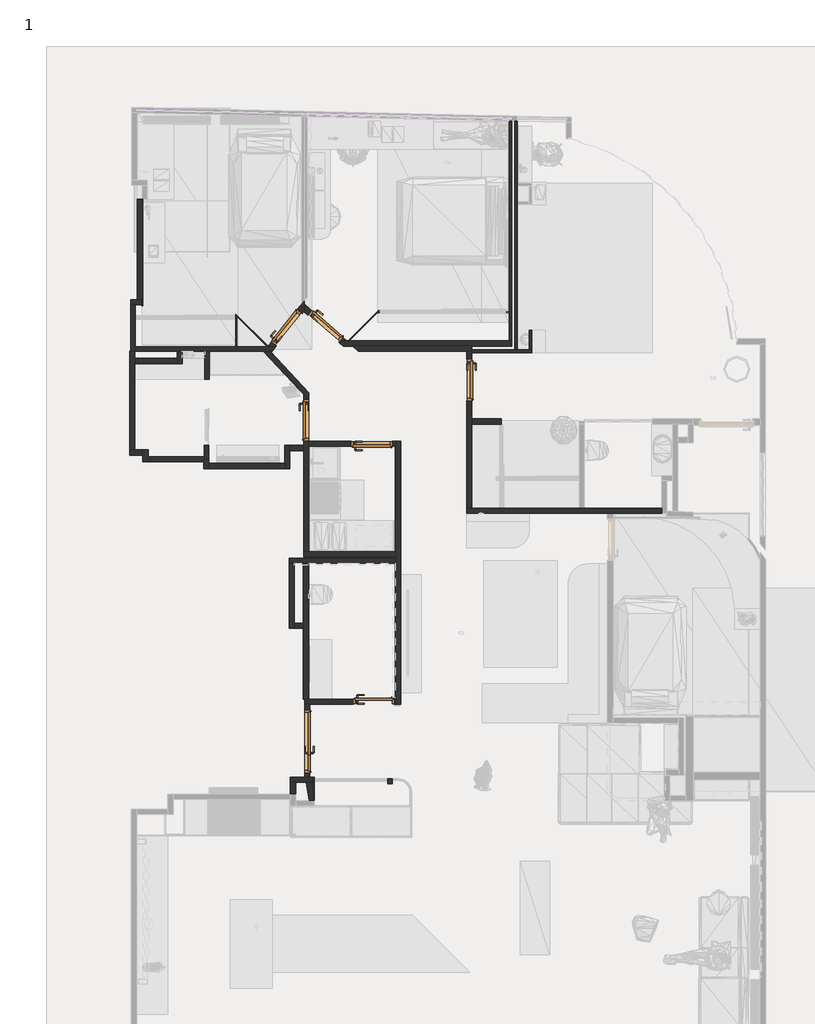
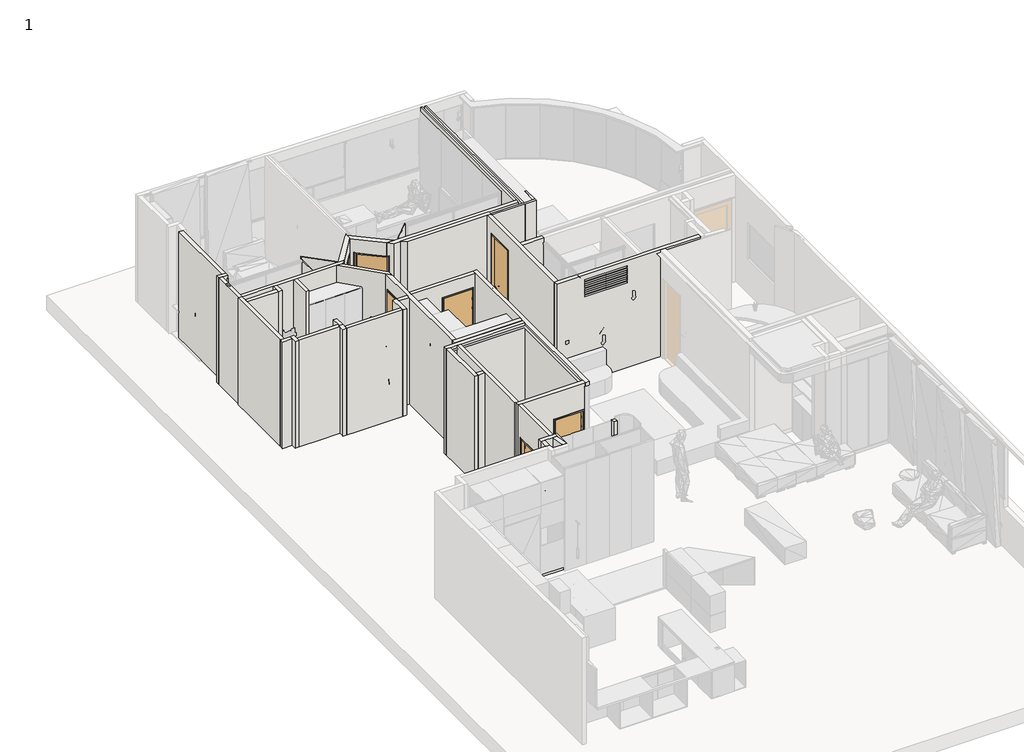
# One storey, part 5 of 11: 50 walls, 7 doors.
"""IFC4 building model written with IfcOpenShell, lengths in millimetres."""

from ifc_helpers import new_model, si_unit, frame, origin, origin_with_axes, place, context, project, spatial, polyline, outline, extrude, faceted_brep, transform, mapped, element, save
from components import door_3129260d, door_d430e235, door_9fdbb8ee, door_badb6875, jw_interior_door_stable_401_unequal_double_1_0_84d4197c, jw_interior_door_stable_401_unequal_double_1_0_001e30e6

model = new_model("IFC4")

# Units and contexts
model_context = context("Model", 3, world=origin())
ifc_project = project(units=[si_unit("LENGTHUNIT", "METRE", prefix="MILLI")], contexts=[model_context])

# Site, building, storey
site = spatial("IfcSite", under=ifc_project)
building = spatial("IfcBuilding", under=site)
storey = spatial("IfcBuildingStorey", under=building, Name="1", Elevation=0.0)

# Doors
placement = place(None, origin())
door_shape = door_3129260d(model_context)
element("IfcDoor", 1, ObjectType="JW_Interior_Door_Steady_411_Single_1.0 : 790 x 1890 mm - M8 x M19 2 gray", at=placement, inside=storey, context=model_context, shape_type="MappedRepresentation", body=[
    mapped(door_shape, transform((90505.7054451, 21800.6154053, 0.0), x_axis=(0.6241807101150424, 0.7812800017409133, 0.0), y_axis=(-0.7812800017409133, 0.6241807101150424, 0.0), z_axis=(0.0, 0.0, 1.0))),
])
element("IfcDoor", 2, ObjectType="JW_Interior_Door_Steady_411_Single_1.0 : 790 x 1890 mm - M8 x M19 2 gray", at=placement, inside=storey, context=model_context, shape_type="MappedRepresentation", body=[
    mapped(door_shape, transform((91246.0698021, 21828.2502061, 0.0), x_axis=(0.7554353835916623, -0.6552231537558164, 0.0), y_axis=(0.6552231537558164, 0.7554353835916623, 0.0), z_axis=(0.0, 0.0, 1.0))),
])
door_2_shape = door_d430e235(model_context)
element("IfcDoor", 3, ObjectType="JW_Interior_Door_Steady_411_Single_1.0 : 790 x 1890 mm - M8 x M19 2 gray", at=placement, inside=storey, context=model_context, shape_type="MappedRepresentation", body=[
    mapped(door_2_shape, transform((94012.5845465, 20799.5343104, 0.0), x_axis=(0.0, -1.0, 0.0), y_axis=(1.0, 0.0, 0.0), z_axis=(0.0, 0.0, 1.0))),
])
door_3_shape = door_9fdbb8ee(model_context)
element("IfcDoor", 4, ObjectType="JW_Interior_Door_Steady_411_Single_1.0 : 790 x 1890 mm - M8 x M19 2 gray", at=placement, inside=storey, context=model_context, shape_type="MappedRepresentation", body=[
    mapped(door_3_shape, transform((92138.200692, 19574.1562218, 0.0), x_axis=(1.0, 0.0, 0.0), y_axis=(0.0, 1.0, 0.0), z_axis=(0.0, 0.0, 1.0))),
])
element("IfcDoor", 5, ObjectType="JW_Interior_Door_Steady_411_Single_1.0 : 790 x 1890 mm - M8 x M19 2 gray", at=placement, inside=storey, context=model_context, shape_type="MappedRepresentation", body=[
    mapped(door_3_shape, transform((90883.200692, 20029.1562218, 0.0), x_axis=(0.0, -1.0, 0.0), y_axis=(1.0, 0.0, 0.0), z_axis=(0.0, 0.0, 1.0))),
])
door_4_shape = door_badb6875(model_context)
element("IfcDoor", 6, ObjectType="JW_Interior_Door_Steady_411_Single_1.0 : 790 x 1890 mm - M8 x M19", at=placement, inside=storey, context=model_context, shape_type="MappedRepresentation", body=[
    mapped(door_4_shape, transform((92176.985489, 14619.8865738, 0.0), x_axis=(1.0, 0.0, 0.0), y_axis=(0.0, 1.0, 0.0), z_axis=(0.0, 0.0, 1.0))),
])
jw_interior_door_stable_401_unequal_double_1_0_shape = jw_interior_door_stable_401_unequal_double_1_0_84d4197c(model_context)
jw_interior_door_stable_401_unequal_double_1_0_2_shape = jw_interior_door_stable_401_unequal_double_1_0_001e30e6(model_context)
element("IfcDoor", 7, ObjectType="JW_Interior_Door_Stable_401_Unequal_Double_1.0 : 1290 x 2090 mm - M13 (M10+30) x M21", at=placement, inside=storey, context=model_context, shape_type="MappedRepresentation", body=[
    mapped(jw_interior_door_stable_401_unequal_double_1_0_shape, transform((90897.0142855, 13854.8865738, 0.0), x_axis=(0.0, 1.0, 0.0), y_axis=(-1.0, 0.0, 0.0), z_axis=(0.0, 0.0, 1.0))),
    mapped(jw_interior_door_stable_401_unequal_double_1_0_2_shape, transform((90897.0142855, 13854.8865738, 0.0), x_axis=(0.0, 1.0, 0.0), y_axis=(-1.0, 0.0, 0.0), z_axis=(0.0, 0.0, 1.0))),
])

# Walls
element("IfcWall", 8, ObjectType=".016", at=placement, inside=storey, context=model_context, shape_type="Brep", body=[
    faceted_brep([(92271.7882614, 22140.6907687, 0.0), (91683.270838, 21552.1733453, 0.0), (91683.270838, 21552.1733453, 2827.5479286), (92271.7882614, 22140.6907687, 2827.5479286), (92283.1019699, 22129.3770602, 0.0), (92283.1019699, 22129.3770602, 2827.5479286), (91705.898255, 21552.1733453, 2827.5479286), (91705.898255, 21552.1733453, 0.0), (92243.9570912, 22090.2321816, 0.0), (92259.9570912, 22106.2321816, 0.0)], [[[0, 1, 2, 3]], [[4, 5, 6, 7, 8, 9]], [[1, 0, 4, 9, 8, 7]], [[3, 2, 6, 5]], [[0, 3, 5, 4]], [[2, 1, 7, 6]]]),
])
element("IfcWall", 9, ObjectType=".016", at=placement, inside=storey, context=model_context, shape_type="SweptSolid", body=[
    extrude(outline(polyline([(91038.8774986, 13138.0733743), (92446.2614834, 13138.0733743), (92446.2614834, 13122.0733743), (91038.8774986, 13122.0733743), (91038.8774986, 13138.0733743)])), origin_with_axes(), (0.0, 0.0, 1.0), 429.7797884),
])
element("IfcWall", 10, ObjectType=".016", at=placement, inside=storey, context=model_context, shape_type="SweptSolid", body=[
    extrude(outline(polyline([(94782.0328941, 22090.2321816), (92243.9570912, 22090.2321816), (92259.9570912, 22106.2321816), (94782.0328941, 22106.2321816), (94782.0328941, 22090.2321816)])), origin_with_axes(), (0.0, 0.0, 1.0), 100.0),
])
element("IfcWall", 11, ObjectType=".016", at=placement, inside=storey, context=model_context, shape_type="Brep", body=[
    faceted_brep([(90147.24832, 21448.064646, 0.0), (89528.5669222, 22066.7460438, 0.0), (89528.5669222, 22066.7460438, 2930.0), (90147.24832, 21448.064646, 2930.0), (90130.9100679, 21441.7754811, 0.0), (90130.9100679, 21441.7754811, 2930.0), (89528.5669222, 22044.1186268, 2930.0), (89528.5669222, 22044.1186268, 2851.0540267), (89528.5669222, 22044.1186268, 0.0), (89544.5669222, 22028.1186268, 0.0), (90142.2237764, 21441.7754811, 0.0), (90142.2237764, 21441.7754811, 2930.0)], [[[0, 1, 2, 3]], [[4, 5, 6, 7, 8, 9]], [[1, 0, 10, 4, 9, 8]], [[3, 2, 6, 5, 11]], [[0, 3, 11, 10]], [[11, 5, 4, 10]], [[2, 1, 8, 7, 6]]]),
])
element("IfcWall", 12, ObjectType=".016", at=placement, inside=storey, context=model_context, shape_type="SweptSolid", body=[
    extrude(outline(polyline([(89528.5669222, 21445.7636617), (89528.5669222, 22044.1186268), (89544.5669222, 22028.1186268), (89544.5669222, 21445.7636617), (89528.5669222, 21445.7636617)])), origin_with_axes(), (0.0, 0.0, 1.0), 2851.0540267),
])
element("IfcWall", 13, ObjectType=".016", at=placement, inside=storey, context=model_context, shape_type="Brep", body=[
    faceted_brep([(87719.0362797, 22338.487544, 0.0), (87719.0362797, 22248.487544, 0.0), (87719.0362797, 22228.487544, 0.0), (87719.0362797, 22228.487544, 2851.0540267), (87719.0362797, 22248.487544, 2851.0540267), (87719.0362797, 22338.487544, 2851.0540267), (87735.0362797, 22338.487544, 0.0), (87735.0362797, 22338.487544, 2851.0540267), (87735.0362797, 22248.487544, 2851.0540267), (87735.0362797, 22228.487544, 2851.0540267), (87735.0362797, 22228.487544, 0.0)], [[[0, 1, 2, 3, 4, 5]], [[6, 7, 8, 9, 10]], [[2, 1, 0, 6, 10]], [[3, 2, 10, 9]], [[5, 4, 3, 9, 8, 7]], [[0, 5, 7, 6]]]),
])
element("IfcWall", 14, ObjectType=".016", at=placement, inside=storey, context=model_context, shape_type="SweptSolid", body=[
    extrude(outline(polyline([(89979.6409184, 12079.0538927), (90577.8549068, 12079.0538927), (90577.8549068, 12063.0538927), (89979.6409184, 12063.0538927), (89979.6409184, 12079.0538927)])), frame((0.0, 0.0, 17.2237934), z_axis=(0.0, 0.0, 1.0), x_axis=(1.0, 0.0, 0.0)), (0.0, 0.0, 1.0), 82.7762066),
])
element("IfcWall", 15, ObjectType="10", at=placement, inside=storey, context=model_context, shape_type="Brep", body=[
    faceted_brep([(91006.8774986, 13166.8008127, 2930.0), (91006.8774986, 13166.8008127, 0.0), (90947.0142855, 13166.8008127, 0.0), (90847.0142855, 13166.8008127, 0.0), (90575.9559803, 13166.8008127, 0.0), (90575.9559803, 13166.8008127, 2930.0), (90847.0142855, 13166.8008127, 2930.0), (90947.0142855, 13166.8008127, 2930.0), (91006.8774986, 13066.8008127, 0.0), (91006.8774986, 13066.8008127, 2930.0), (90986.3381857, 13066.8008127, 2930.0), (90885.2180888, 13066.8008127, 2930.0), (90675.9559803, 13066.8008127, 2930.0), (90575.9559803, 13066.8008127, 2930.0), (90575.9559803, 13066.8008127, 0.0), (90675.9559803, 13066.8008127, 0.0), (90885.2180888, 13066.8008127, 0.0), (90986.3381857, 13066.8008127, 0.0)], [[[0, 1, 2, 3, 4, 5, 6, 7]], [[8, 9, 10, 11, 12, 13, 14, 15, 16, 17]], [[4, 3, 2, 1, 8, 17, 16, 15, 14]], [[0, 7, 6, 5, 13, 12, 11, 10, 9]], [[5, 4, 14, 13]], [[0, 9, 8, 1]]]),
])
element("IfcWall", 16, ObjectType="10", at=placement, inside=storey, context=model_context, shape_type="Brep", body=[
    faceted_brep([(90575.9559803, 13066.8008127, 0.0), (90575.9559803, 12844.7827136, 0.0), (90575.9559803, 12844.7827136, 2930.0), (90575.9559803, 13066.8008127, 2930.0), (90675.9559803, 13066.8008127, 0.0), (90675.9559803, 13066.8008127, 2930.0), (90675.9559803, 12844.7827136, 2930.0), (90675.9559803, 12844.7827136, 0.0), (90577.8549068, 12844.7827136, 0.0), (90577.8549068, 12844.7827136, 2930.0)], [[[0, 1, 2, 3]], [[4, 5, 6, 7]], [[1, 0, 4, 7, 8]], [[3, 2, 9, 6, 5]], [[2, 1, 8, 7, 6, 9]], [[0, 3, 5, 4]]]),
])
element("IfcWall", 17, ObjectType="10", at=placement, inside=storey, context=model_context, shape_type="SweptSolid", body=[
    extrude(outline(polyline([(90986.3381857, 13066.8008127), (91038.8774986, 12716.7518002), (90937.7574017, 12716.7518002), (90885.2180888, 13066.8008127), (90986.3381857, 13066.8008127)])), origin_with_axes(), (0.0, 0.0, 1.0), 2930.0),
])
element("IfcWall", 18, ObjectType="10", at=placement, inside=storey, context=model_context, shape_type="Brep", body=[
    faceted_brep([(87635.0362797, 24268.9082853, 0.0), (87635.0362797, 22338.487544, 0.0), (87635.0362797, 22338.487544, 2930.0), (87635.0362797, 24268.9082853, 2930.0), (87735.0362797, 24268.9082853, 0.0), (87735.0362797, 24268.9082853, 2930.0), (87735.0362797, 22338.487544, 2930.0), (87735.0362797, 22338.487544, 2851.0540267), (87735.0362797, 22338.487544, 0.0), (87729.253874, 24268.9082853, 0.0), (87719.0362797, 22338.487544, 0.0), (87729.253874, 24268.9082853, 2930.0)], [[[0, 1, 2, 3]], [[4, 5, 6, 7, 8]], [[1, 0, 9, 4, 8, 10]], [[3, 2, 6, 5, 11]], [[0, 3, 11, 5, 4, 9]], [[2, 1, 10, 8, 7, 6]]]),
])
element("IfcWall", 19, ObjectType="10", at=placement, inside=storey, context=model_context, shape_type="Brep", body=[
    faceted_brep([(94630.8109317, 20052.3905873, 0.0), (94062.5845465, 20052.3905873, 0.0), (94062.5845465, 20052.3905873, 2930.0), (94630.8109317, 20052.3905873, 2930.0), (94630.8109317, 19952.3905873, 0.0), (94630.8109317, 19952.3905873, 2320.0), (94630.8109317, 19952.3905873, 2930.0), (94062.5845465, 19952.3905873, 2930.0), (94062.5845465, 19952.3905873, 0.0)], [[[0, 1, 2, 3]], [[4, 5, 6, 7, 8]], [[1, 0, 4, 8]], [[3, 2, 7, 6]], [[0, 3, 6, 5, 4]], [[2, 1, 8, 7]]]),
])
element("IfcWall", 20, ObjectType="10", at=placement, inside=storey, context=model_context, shape_type="Brep", body=[
    faceted_brep([(97709.8270097, 18334.4281393, 0.0), (96224.9879055, 18334.4281393, 0.0), (96124.9879055, 18334.4281393, 0.0), (94062.5845465, 18334.4281393, 0.0), (93962.5845465, 18334.4281393, 0.0), (93962.5845465, 18334.4281393, 2930.0), (94062.5845465, 18334.4281393, 2930.0), (96124.9879055, 18334.4281393, 2930.0), (96224.9879055, 18334.4281393, 2930.0), (97709.8270097, 18334.4281393, 2930.0), (94698.2924445, 18334.4281393, 2332.760625), (95798.2924445, 18334.4281393, 2332.760625), (95798.2924445, 18334.4281393, 2372.760625), (94698.2924445, 18334.4281393, 2372.760625), (95798.2924445, 18334.4281393, 2392.760625), (95798.2924445, 18334.4281393, 2432.760625), (94698.2924445, 18334.4281393, 2432.760625), (94698.2924445, 18334.4281393, 2392.760625), (95798.2924445, 18334.4281393, 2452.760625), (95798.2924445, 18334.4281393, 2492.760625), (94698.2924445, 18334.4281393, 2492.760625), (94698.2924445, 18334.4281393, 2452.760625), (95798.2924445, 18334.4281393, 2512.760625), (95798.2924445, 18334.4281393, 2552.760625), (94698.2924445, 18334.4281393, 2552.760625), (94698.2924445, 18334.4281393, 2512.760625), (95798.2924445, 18334.4281393, 2572.760625), (95798.2924445, 18334.4281393, 2612.760625), (94698.2924445, 18334.4281393, 2612.760625), (94698.2924445, 18334.4281393, 2572.760625), (95798.2924445, 18334.4281393, 2632.760625), (95798.2924445, 18334.4281393, 2672.760625), (94698.2924445, 18334.4281393, 2672.760625), (94698.2924445, 18334.4281393, 2632.760625), (95798.2924445, 18334.4281393, 2692.760625), (95798.2924445, 18334.4281393, 2732.760625), (94698.2924445, 18334.4281393, 2732.760625), (94698.2924445, 18334.4281393, 2692.760625), (95798.2924445, 18334.4281393, 2752.760625), (95798.2924445, 18334.4281393, 2792.760625), (94698.2924445, 18334.4281393, 2792.760625), (94698.2924445, 18334.4281393, 2752.760625), (93962.5845465, 18234.4281393, 0.0), (96663.359081, 18234.4281393, 0.0), (96783.359081, 18234.4281393, 0.0), (97709.8270097, 18234.4281393, 0.0), (97709.8270097, 18234.4281393, 2930.0), (96783.359081, 18234.4281393, 2930.0), (96663.359081, 18234.4281393, 2930.0), (93962.5845465, 18234.4281393, 2930.0), (95798.2924445, 18234.4281393, 2332.760625), (94698.2924445, 18234.4281393, 2332.760625), (94698.2924445, 18234.4281393, 2372.760625), (95798.2924445, 18234.4281393, 2372.760625), (95798.2924445, 18234.4281393, 2432.760625), (95798.2924445, 18234.4281393, 2392.760625), (94698.2924445, 18234.4281393, 2392.760625), (94698.2924445, 18234.4281393, 2432.760625), (95798.2924445, 18234.4281393, 2492.760625), (95798.2924445, 18234.4281393, 2452.760625), (94698.2924445, 18234.4281393, 2452.760625), (94698.2924445, 18234.4281393, 2492.760625), (95798.2924445, 18234.4281393, 2552.760625), (95798.2924445, 18234.4281393, 2512.760625), (94698.2924445, 18234.4281393, 2512.760625), (94698.2924445, 18234.4281393, 2552.760625), (95798.2924445, 18234.4281393, 2612.760625), (95798.2924445, 18234.4281393, 2572.760625), (94698.2924445, 18234.4281393, 2572.760625), (94698.2924445, 18234.4281393, 2612.760625), (95798.2924445, 18234.4281393, 2672.760625), (95798.2924445, 18234.4281393, 2632.760625), (94698.2924445, 18234.4281393, 2632.760625), (94698.2924445, 18234.4281393, 2672.760625), (95798.2924445, 18234.4281393, 2732.760625), (95798.2924445, 18234.4281393, 2692.760625), (94698.2924445, 18234.4281393, 2692.760625), (94698.2924445, 18234.4281393, 2732.760625), (95798.2924445, 18234.4281393, 2792.760625), (95798.2924445, 18234.4281393, 2752.760625), (94698.2924445, 18234.4281393, 2752.760625), (94698.2924445, 18234.4281393, 2792.760625), (94184.4379055, 18234.4281393, 266.9017354), (94184.4379055, 18234.4281393, 348.0517354), (94265.5379055, 18234.4281393, 348.0517354), (94265.5379055, 18234.4281393, 266.9017354), (94184.4379055, 18259.4281393, 348.0517354), (94184.4379055, 18259.4281393, 266.9017354), (94265.5379055, 18259.4281393, 266.9017354), (94265.5379055, 18259.4281393, 348.0517354)], [[[0, 1, 2, 3, 4, 5, 6, 7, 8, 9], [10, 11, 12, 13], [14, 15, 16, 17], [18, 19, 20, 21], [22, 23, 24, 25], [26, 27, 28, 29], [30, 31, 32, 33], [34, 35, 36, 37], [38, 39, 40, 41]], [[42, 43, 44, 45, 46, 47, 48, 49], [50, 51, 52, 53], [54, 55, 56, 57], [58, 59, 60, 61], [62, 63, 64, 65], [66, 67, 68, 69], [70, 71, 72, 73], [74, 75, 76, 77], [78, 79, 80, 81], [82, 83, 84, 85]], [[5, 4, 42, 49]], [[0, 9, 46, 45]], [[4, 3, 2, 1, 0, 45, 44, 43, 42]], [[9, 8, 7, 6, 5, 49, 48, 47, 46]], [[11, 10, 51, 50]], [[10, 13, 52, 51]], [[13, 12, 53, 52]], [[12, 11, 50, 53]], [[15, 14, 55, 54]], [[16, 15, 54, 57]], [[17, 16, 57, 56]], [[14, 17, 56, 55]], [[19, 18, 59, 58]], [[20, 19, 58, 61]], [[21, 20, 61, 60]], [[18, 21, 60, 59]], [[23, 22, 63, 62]], [[24, 23, 62, 65]], [[25, 24, 65, 64]], [[22, 25, 64, 63]], [[27, 26, 67, 66]], [[28, 27, 66, 69]], [[29, 28, 69, 68]], [[26, 29, 68, 67]], [[31, 30, 71, 70]], [[32, 31, 70, 73]], [[33, 32, 73, 72]], [[30, 33, 72, 71]], [[35, 34, 75, 74]], [[36, 35, 74, 77]], [[37, 36, 77, 76]], [[34, 37, 76, 75]], [[39, 38, 79, 78]], [[40, 39, 78, 81]], [[41, 40, 81, 80]], [[38, 41, 80, 79]], [[86, 87, 88, 89]], [[87, 86, 83, 82]], [[88, 87, 82, 85]], [[89, 88, 85, 84]], [[86, 89, 84, 83]]]),
])
element("IfcWall", 21, ObjectType="10", at=placement, inside=storey, context=model_context, shape_type="Brep", body=[
    faceted_brep([(91588.0933804, 21452.1733453, 0.0), (94832.0328941, 21452.1733453, 0.0), (94832.0328941, 21452.1733453, 2930.0), (91588.0933804, 21452.1733453, 2930.0), (91472.799014, 21552.1733453, 2930.0), (91655.9427251, 21552.1733453, 2930.0), (94782.0328941, 21552.1733453, 2930.0), (94832.0328941, 21552.1733453, 2930.0), (94832.0328941, 21552.1733453, 0.0), (94782.0328941, 21552.1733453, 0.0), (91705.898255, 21552.1733453, 0.0), (91683.270838, 21552.1733453, 0.0), (91655.9427251, 21552.1733453, 0.0), (91542.7305801, 21552.1733453, 0.0), (91542.7305801, 21552.1733453, 2560.0), (91472.799014, 21552.1733453, 2560.0), (91512.7077432, 21517.5587059, 0.0), (91512.7077432, 21517.5587059, 2560.0)], [[[0, 1, 2, 3]], [[4, 5, 6, 7, 8, 9, 10, 11, 12, 13, 14, 15]], [[1, 0, 16, 13, 12, 11, 10, 9, 8]], [[3, 2, 7, 6, 5, 4]], [[2, 1, 8, 7]], [[17, 14, 13, 16]], [[14, 17, 15]], [[3, 4, 15, 17, 16, 0]]]),
])
element("IfcWall", 22, ObjectType="10", at=placement, inside=storey, context=model_context, shape_type="Brep", body=[
    faceted_brep([(92591.985489, 17498.5737587, 0.0), (90933.200692, 17498.5737587, 0.0), (90833.200692, 17498.5737587, 0.0), (90833.200692, 17498.5737587, 2930.0), (90933.200692, 17498.5737587, 2930.0), (92591.985489, 17498.5737587, 2930.0), (92591.985489, 17398.5737587, 0.0), (92591.985489, 17398.5737587, 2930.0), (90833.200692, 17398.5737587, 2930.0), (90833.200692, 17398.5737587, 0.0)], [[[0, 1, 2, 3, 4, 5]], [[6, 7, 8, 9]], [[2, 1, 0, 6, 9]], [[5, 4, 3, 8, 7]], [[3, 2, 9, 8]], [[0, 5, 7, 6]]]),
])
element("IfcWall", 23, ObjectType="10", at=placement, inside=storey, context=model_context, shape_type="Brep", body=[
    faceted_brep([(94062.5845465, 21455.5715615, 0.0), (91767.3191397, 21455.5715615, 0.0), (91767.3191397, 21455.5715615, 2930.0), (94062.5845465, 21455.5715615, 2930.0), (94062.5845465, 21355.5715615, 0.0), (94062.5845465, 21355.5715615, 2930.0), (93962.5845465, 21355.5715615, 2930.0), (91882.6135061, 21355.5715615, 2930.0), (91882.6135061, 21355.5715615, 0.0), (93962.5845465, 21355.5715615, 0.0), (94062.5845465, 21375.9233453, 0.0), (94062.5845465, 21375.9233453, 2930.0)], [[[0, 1, 2, 3]], [[4, 5, 6, 7, 8, 9]], [[1, 0, 10, 4, 9, 8]], [[3, 2, 7, 6, 5, 11]], [[0, 3, 11, 5, 4, 10]], [[2, 1, 8, 7]]]),
])
element("IfcWall", 24, ObjectType="10", at=placement, inside=storey, context=model_context, shape_type="Brep", body=[
    faceted_brep([(93962.5845465, 18334.4281393, 2930.0), (93962.5845465, 21355.5715615, 2930.0), (93962.5845465, 21355.5715615, 0.0), (93962.5845465, 21204.5343104, 0.0), (93962.5845465, 21204.5343104, 2560.0), (93962.5845465, 20394.5343104, 2560.0), (93962.5845465, 20394.5343104, 0.0), (93962.5845465, 18334.4281393, 0.0), (94062.5845465, 21355.5715615, 2930.0), (94062.5845465, 21325.9233453, 2930.0), (94062.5845465, 20052.3905873, 2930.0), (94062.5845465, 19952.3905873, 2930.0), (94062.5845465, 18334.4281393, 2930.0), (94062.5845465, 18334.4281393, 0.0), (94062.5845465, 19952.3905873, 0.0), (94062.5845465, 20052.3905873, 0.0), (94062.5845465, 20394.5343104, 0.0), (94062.5845465, 20394.5343104, 2560.0), (94062.5845465, 21204.5343104, 2560.0), (94062.5845465, 21204.5343104, 0.0), (94062.5845465, 21325.9233453, 0.0), (94062.5845465, 21355.5715615, 0.0)], [[[0, 1, 2, 3, 4, 5, 6, 7]], [[8, 9, 10, 11, 12, 13, 14, 15, 16, 17, 18, 19, 20, 21]], [[2, 21, 20, 19, 3]], [[13, 7, 6, 16, 15, 14]], [[1, 0, 12, 11, 10, 9, 8]], [[0, 7, 13, 12]], [[2, 1, 8, 21]], [[5, 17, 16, 6]], [[17, 5, 4, 18]], [[18, 4, 3, 19]]]),
])
element("IfcWall", 25, ObjectType="10", at=placement, inside=storey, context=model_context, shape_type="Brep", body=[
    faceted_brep([(92591.985489, 14569.8865738, 2930.0), (90947.0142855, 14569.8865738, 2930.0), (90847.0142855, 14569.8865738, 2930.0), (90847.0142855, 14569.8865738, 0.0), (90947.0142855, 14569.8865738, 0.0), (91771.985489, 14569.8865738, 0.0), (91771.985489, 14569.8865738, 2210.0), (92581.985489, 14569.8865738, 2210.0), (92581.985489, 14569.8865738, 0.0), (92591.985489, 14569.8865738, 0.0), (90847.0142855, 14669.8865738, 2930.0), (90925.423998, 14669.8865738, 2930.0), (92591.985489, 14669.8865738, 2930.0), (92591.985489, 14669.8865738, 0.0), (92581.985489, 14669.8865738, 0.0), (92581.985489, 14669.8865738, 2210.0), (91771.985489, 14669.8865738, 2210.0), (91771.985489, 14669.8865738, 0.0), (90925.423998, 14669.8865738, 0.0), (90847.0142855, 14669.8865738, 0.0)], [[[0, 1, 2, 3, 4, 5, 6, 7, 8, 9]], [[10, 11, 12, 13, 14, 15, 16, 17, 18, 19]], [[3, 19, 18, 17, 5, 4]], [[13, 9, 8, 14]], [[2, 1, 0, 12, 11, 10]], [[3, 2, 10, 19]], [[7, 15, 14, 8]], [[15, 7, 6, 16]], [[16, 6, 5, 17]], [[12, 0, 9, 13]]]),
])
element("IfcWall", 26, ObjectType="10", at=placement, inside=storey, context=model_context, shape_type="SweptSolid", body=[
    extrude(outline(polyline([(13166.8008127, 2930.0), (14569.8865738, 2930.0), (14569.8865738, 0.0), (14464.8865738, 0.0), (14464.8865738, 2100.0), (13244.8865738, 2100.0), (13244.8865738, 0.0), (13166.8008127, 0.0), (13166.8008127, 2930.0)])), frame((90847.0142855, 0.0, 0.0), z_axis=(1.0, 0.0, 0.0), x_axis=(0.0, 1.0, 0.0)), (0.0, 0.0, 1.0), 100.0),
])
element("IfcWall", 27, ObjectType="10", at=placement, inside=storey, context=model_context, shape_type="Brep", body=[
    faceted_brep([(90933.200692, 20406.3898123, 2930.0), (90833.200692, 20513.5461955, 2930.0), (90050.9521126, 21351.7754811, 2930.0), (90050.9521126, 21351.7754811, 0.0), (90833.200692, 20513.5461955, 0.0), (90907.2886476, 20434.1562218, 0.0), (90907.2886476, 20434.1562218, 2560.0), (90933.200692, 20406.3898123, 2560.0), (90933.200692, 20552.9588761, 0.0), (90187.7326378, 21351.7754811, 0.0), (90187.7326378, 21351.7754811, 2930.0), (90933.200692, 20552.9588761, 2930.0), (90933.200692, 20434.1562218, 0.0), (90933.200692, 20434.1562218, 2560.0)], [[[0, 1, 2, 3, 4, 5, 6, 7]], [[8, 9, 10, 11]], [[9, 8, 12, 5, 4, 3]], [[2, 1, 0, 11, 10]], [[3, 2, 10, 9]], [[8, 11, 0, 7, 13, 12]], [[6, 13, 7]], [[13, 6, 5, 12]]]),
])
element("IfcWall", 28, ObjectType="10", at=placement, inside=storey, context=model_context, shape_type="Brep", body=[
    faceted_brep([(90833.200692, 17498.5737587, 2930.0), (90833.200692, 19441.5008997, 2930.0), (90833.200692, 19541.5008997, 2930.0), (90833.200692, 20513.5461955, 2930.0), (90833.200692, 20513.5461955, 0.0), (90833.200692, 20434.1562218, 0.0), (90833.200692, 20434.1562218, 2560.0), (90833.200692, 19624.1562218, 2560.0), (90833.200692, 19624.1562218, 0.0), (90833.200692, 19541.5008997, 0.0), (90833.200692, 19441.5008997, 0.0), (90833.200692, 17498.5737587, 0.0), (90933.200692, 20406.3898123, 2930.0), (90933.200692, 19624.1562218, 2930.0), (90933.200692, 19524.1562218, 2930.0), (90933.200692, 17498.5737587, 2930.0), (90933.200692, 17498.5737587, 0.0), (90933.200692, 19524.1562218, 0.0), (90933.200692, 19624.1562218, 0.0), (90933.200692, 19624.1562218, 2560.0), (90933.200692, 20406.3898123, 2560.0), (90907.2886476, 20434.1562218, 0.0), (90907.2886476, 20434.1562218, 2560.0)], [[[0, 1, 2, 3, 4, 5, 6, 7, 8, 9, 10, 11]], [[12, 13, 14, 15, 16, 17, 18, 19, 20]], [[16, 11, 10, 9, 8, 18, 17]], [[5, 4, 21]], [[3, 2, 1, 0, 15, 14, 13, 12]], [[4, 3, 12, 20, 22, 21]], [[0, 11, 16, 15]], [[7, 19, 18, 8]], [[19, 7, 6, 22, 20]], [[22, 6, 5, 21]]]),
])
element("IfcWall", 29, ObjectType="10", at=placement, inside=storey, context=model_context, shape_type="Brep", body=[
    faceted_brep([(92591.985489, 19524.1562218, 2930.0), (90933.200692, 19524.1562218, 2930.0), (90933.200692, 19524.1562218, 0.0), (91733.200692, 19524.1562218, 0.0), (91733.200692, 19524.1562218, 2560.0), (92543.200692, 19524.1562218, 2560.0), (92543.200692, 19524.1562218, 0.0), (92591.985489, 19524.1562218, 0.0), (90933.200692, 19624.1562218, 2930.0), (92591.985489, 19624.1562218, 2930.0), (92591.985489, 19624.1562218, 0.0), (92543.200692, 19624.1562218, 0.0), (92543.200692, 19624.1562218, 2560.0), (91733.200692, 19624.1562218, 2560.0), (91733.200692, 19624.1562218, 0.0), (90933.200692, 19624.1562218, 0.0), (90933.200692, 19624.1562218, 2560.0)], [[[0, 1, 2, 3, 4, 5, 6, 7]], [[8, 9, 10, 11, 12, 13, 14, 15, 16]], [[2, 15, 14, 3]], [[10, 7, 6, 11]], [[1, 0, 9, 8]], [[0, 7, 10, 9]], [[2, 1, 8, 16, 15]], [[5, 12, 11, 6]], [[12, 5, 4, 13]], [[13, 4, 3, 14]]]),
])
element("IfcWall", 30, ObjectType="10", at=placement, inside=storey, context=model_context, shape_type="SweptSolid", body=[
    extrude(outline(polyline([(90563.7504489, 19541.5008997), (90833.200692, 19541.5008997), (90833.200692, 19441.5008997), (90563.7504489, 19441.5008997), (90563.7504489, 19541.5008997)])), origin_with_axes(), (0.0, 0.0, 1.0), 2930.0),
])
element("IfcWall", 31, ObjectType="10", at=placement, inside=storey, context=model_context, shape_type="Brep", body=[
    faceted_brep([(90463.7504489, 19541.5008997, 0.0), (90463.7504489, 19195.1617865, 0.0), (90463.7504489, 19095.1617865, 0.0), (90463.7504489, 19095.1617865, 2930.0), (90463.7504489, 19195.1617865, 2930.0), (90463.7504489, 19541.5008997, 2930.0), (90563.7504489, 19541.5008997, 0.0), (90563.7504489, 19541.5008997, 2930.0), (90563.7504489, 19441.5008997, 2930.0), (90563.7504489, 19095.1617865, 2930.0), (90563.7504489, 19095.1617865, 0.0), (90563.7504489, 19441.5008997, 0.0)], [[[0, 1, 2, 3, 4, 5]], [[6, 7, 8, 9, 10, 11]], [[2, 1, 0, 6, 11, 10]], [[5, 4, 3, 9, 8, 7]], [[0, 5, 7, 6]], [[3, 2, 10, 9]]]),
])
element("IfcWall", 32, ObjectType="10", at=placement, inside=storey, context=model_context, shape_type="SweptSolid", body=[
    extrude(outline(polyline([(89008.3368224, 19195.1617865), (90463.7504489, 19195.1617865), (90463.7504489, 19095.1617865), (89008.3368224, 19095.1617865), (89008.3368224, 19195.1617865)])), origin_with_axes(), (0.0, 0.0, 1.0), 2930.0),
])
element("IfcWall", 33, ObjectType="10", at=placement, inside=storey, context=model_context, shape_type="Brep", body=[
    faceted_brep([(89008.3368224, 19095.1617865, 0.0), (89008.3368224, 19195.1617865, 0.0), (89008.3368224, 19278.0121652, 0.0), (89008.3368224, 19278.0121652, 2930.0), (89008.3368224, 19195.1617865, 2930.0), (89008.3368224, 19095.1617865, 2930.0), (88908.3368224, 19095.1617865, 0.0), (88908.3368224, 19095.1617865, 2930.0), (88908.3368224, 19228.0121652, 2930.0), (88908.3368224, 19278.0121652, 2930.0), (88908.3368224, 19278.0121652, 0.0), (88908.3368224, 19228.0121652, 0.0), (88918.3368224, 19278.0121652, 0.0), (88918.3368224, 19278.0121652, 2930.0)], [[[0, 1, 2, 3, 4, 5]], [[6, 7, 8, 9, 10, 11]], [[2, 1, 0, 6, 11, 10, 12]], [[3, 2, 12, 10, 9, 13]], [[5, 4, 3, 13, 9, 8, 7]], [[0, 5, 7, 6]]]),
])
element("IfcWall", 34, ObjectType="10", at=placement, inside=storey, context=model_context, shape_type="SweptSolid", body=[
    extrude(outline(polyline([(87841.9787823, 19328.0121652), (88918.3368224, 19328.0121652), (88918.3368224, 19278.0121652), (88908.3368224, 19278.0121652), (88908.3368224, 19228.0121652), (87841.9787823, 19228.0121652), (87841.9787823, 19328.0121652)])), origin_with_axes(), (0.0, 0.0, 1.0), 2930.0),
])
element("IfcWall", 35, ObjectType="10", at=placement, inside=storey, context=model_context, shape_type="Brep", body=[
    faceted_brep([(87841.9787823, 19228.0121652, 0.0), (87841.9787823, 19328.0121652, 0.0), (87841.9787823, 19454.3174421, 0.0), (87841.9787823, 19454.3174421, 2930.0), (87841.9787823, 19328.0121652, 2930.0), (87841.9787823, 19228.0121652, 2930.0), (87741.9787823, 19228.0121652, 0.0), (87741.9787823, 19228.0121652, 2930.0), (87741.9787823, 19354.3174421, 2930.0), (87741.9787823, 19454.3174421, 2930.0), (87741.9787823, 19454.3174421, 0.0), (87741.9787823, 19354.3174421, 0.0)], [[[0, 1, 2, 3, 4, 5]], [[6, 7, 8, 9, 10, 11]], [[2, 1, 0, 6, 11, 10]], [[5, 4, 3, 9, 8, 7]], [[0, 5, 7, 6]], [[3, 2, 10, 9]]]),
])
element("IfcWall", 36, ObjectType="10", at=placement, inside=storey, context=model_context, shape_type="Brep", body=[
    faceted_brep([(87741.9787823, 19454.3174421, 0.0), (87588.7972847, 19454.3174421, 0.0), (87488.7972847, 19454.3174421, 0.0), (87488.7972847, 19454.3174421, 2930.0), (87588.7972847, 19454.3174421, 2930.0), (87741.9787823, 19454.3174421, 2930.0), (87741.9787823, 19354.3174421, 0.0), (87741.9787823, 19354.3174421, 2930.0), (87488.7972847, 19354.3174421, 2930.0), (87488.7972847, 19354.3174421, 0.0)], [[[0, 1, 2, 3, 4, 5]], [[6, 7, 8, 9]], [[2, 1, 0, 6, 9]], [[5, 4, 3, 8, 7]], [[0, 5, 7, 6]], [[3, 2, 9, 8]]]),
])
element("IfcWall", 37, ObjectType="10", at=placement, inside=storey, context=model_context, shape_type="Brep", body=[
    faceted_brep([(87588.7972847, 19454.3174421, 0.0), (87588.7972847, 21113.0934632, 0.0), (87588.7972847, 21213.0934632, 0.0), (87588.7972847, 21351.7754811, 0.0), (87588.7972847, 21351.7754811, 2930.0), (87588.7972847, 21213.0934632, 2930.0), (87588.7972847, 21113.0934632, 2930.0), (87588.7972847, 19454.3174421, 2930.0), (87488.7972847, 19454.3174421, 0.0), (87488.7972847, 19454.3174421, 2930.0), (87488.7972847, 21351.7754811, 2930.0), (87488.7972847, 21351.7754811, 0.0), (87504.6763128, 21351.7754811, 0.0), (87504.6763128, 21351.7754811, 2930.0)], [[[0, 1, 2, 3, 4, 5, 6, 7]], [[8, 9, 10, 11]], [[3, 2, 1, 0, 8, 11, 12]], [[7, 6, 5, 4, 13, 10, 9]], [[4, 3, 12, 11, 10, 13]], [[0, 7, 9, 8]]]),
])
element("IfcWall", 38, ObjectType="10", at=placement, inside=storey, context=model_context, shape_type="SweptSolid", body=[
    extrude(outline(polyline([(88398.7972847, 21113.0934632), (87588.7972847, 21113.0934632), (87588.7972847, 21213.0934632), (88398.7972847, 21213.0934632), (88398.7972847, 21113.0934632)])), origin_with_axes(), (0.0, 0.0, 1.0), 2930.0),
])
element("IfcWall", 39, ObjectType="10", at=placement, inside=storey, context=model_context, shape_type="Brep", body=[
    faceted_brep([(88498.7972847, 21113.0934632, 0.0), (88498.7972847, 21351.7754811, 0.0), (88498.7972847, 21351.7754811, 2930.0), (88498.7972847, 21113.0934632, 2930.0), (88398.7972847, 21113.0934632, 0.0), (88398.7972847, 21113.0934632, 2930.0), (88398.7972847, 21213.0934632, 2930.0), (88398.7972847, 21351.7754811, 2930.0), (88398.7972847, 21351.7754811, 0.0), (88398.7972847, 21213.0934632, 0.0)], [[[0, 1, 2, 3]], [[4, 5, 6, 7, 8, 9]], [[1, 0, 4, 9, 8]], [[3, 2, 7, 6, 5]], [[2, 1, 8, 7]], [[0, 3, 5, 4]]]),
])
element("IfcWall", 40, ObjectType="10", at=placement, inside=storey, context=model_context, shape_type="Brep", body=[
    faceted_brep([(90551.7794713, 17279.0614237, 0.0), (90651.7794713, 17279.0614237, 0.0), (90825.423998, 17279.0614237, 0.0), (90925.423998, 17279.0614237, 0.0), (92591.985489, 17279.0614237, 0.0), (92591.985489, 17279.0614237, 2930.0), (90925.423998, 17279.0614237, 2930.0), (90825.423998, 17279.0614237, 2930.0), (90651.7794713, 17279.0614237, 2930.0), (90551.7794713, 17279.0614237, 2930.0), (90551.7794713, 17379.0614237, 0.0), (90551.7794713, 17379.0614237, 2930.0), (92591.985489, 17379.0614237, 2930.0), (92591.985489, 17379.0614237, 0.0)], [[[0, 1, 2, 3, 4, 5, 6, 7, 8, 9]], [[10, 11, 12, 13]], [[4, 3, 2, 1, 0, 10, 13]], [[9, 8, 7, 6, 5, 12, 11]], [[5, 4, 13, 12]], [[0, 9, 11, 10]]]),
])
element("IfcWall", 41, ObjectType="10", at=placement, inside=storey, context=model_context, shape_type="Brep", body=[
    faceted_brep([(90651.7794713, 16029.3170598, 0.0), (90651.7794713, 16129.3170598, 0.0), (90651.7794713, 17279.0614237, 0.0), (90651.7794713, 17279.0614237, 2930.0), (90651.7794713, 16129.3170598, 2930.0), (90651.7794713, 16029.3170598, 2930.0), (90551.7794713, 16029.3170598, 0.0), (90551.7794713, 16029.3170598, 2930.0), (90551.7794713, 17279.0614237, 2930.0), (90551.7794713, 17279.0614237, 0.0)], [[[0, 1, 2, 3, 4, 5]], [[6, 7, 8, 9]], [[2, 1, 0, 6, 9]], [[5, 4, 3, 8, 7]], [[3, 2, 9, 8]], [[0, 5, 7, 6]]]),
])
element("IfcWall", 42, ObjectType="10", at=placement, inside=storey, context=model_context, shape_type="SweptSolid", body=[
    extrude(outline(polyline([(90651.7794713, 16129.3170598), (90825.423998, 16129.3170598), (90825.423998, 16029.3170598), (90651.7794713, 16029.3170598), (90651.7794713, 16129.3170598)])), origin_with_axes(), (0.0, 0.0, 1.0), 2930.0),
])
element("IfcWall", 43, ObjectType="10", at=placement, inside=storey, context=model_context, shape_type="Brep", body=[
    faceted_brep([(90925.423998, 14669.8865738, 0.0), (90925.423998, 17279.0614237, 0.0), (90925.423998, 17279.0614237, 2930.0), (90925.423998, 14669.8865738, 2930.0), (90925.423998, 16169.3170598, 1150.0), (90925.423998, 17239.0614237, 1150.0), (90925.423998, 17239.0614237, 1048.1073622), (90925.423998, 16169.3170598, 1048.1073622), (90825.423998, 17279.0614237, 0.0), (90825.423998, 16129.3170598, 0.0), (90825.423998, 16029.3170598, 0.0), (90825.423998, 14669.8865738, 0.0), (90825.423998, 14669.8865738, 2930.0), (90825.423998, 16029.3170598, 2930.0), (90825.423998, 16129.3170598, 2930.0), (90825.423998, 17279.0614237, 2930.0), (90825.423998, 17239.0614237, 1150.0), (90825.423998, 16169.3170598, 1150.0), (90825.423998, 16169.3170598, 1048.1073622), (90825.423998, 17239.0614237, 1048.1073622), (90847.0142855, 14669.8865738, 0.0), (90847.0142855, 14669.8865738, 2930.0)], [[[0, 1, 2, 3], [4, 5, 6, 7]], [[8, 9, 10, 11, 12, 13, 14, 15], [16, 17, 18, 19]], [[1, 0, 20, 11, 10, 9, 8]], [[3, 2, 15, 14, 13, 12, 21]], [[0, 3, 21, 12, 11, 20]], [[2, 1, 8, 15]], [[4, 17, 16, 5]], [[6, 19, 18, 7]], [[17, 4, 7, 18]], [[5, 16, 19, 6]]]),
])
element("IfcWall", 44, ObjectType="10", at=placement, inside=storey, context=model_context, shape_type="Brep", body=[
    faceted_brep([(92691.985489, 14569.8865738, 0.0), (92691.985489, 19624.1562218, 0.0), (92691.985489, 19624.1562218, 2930.0), (92691.985489, 14569.8865738, 2930.0), (92591.985489, 14569.8865738, 0.0), (92591.985489, 14569.8865738, 2930.0), (92591.985489, 14669.8865738, 2930.0), (92591.985489, 17279.0614237, 2930.0), (92591.985489, 17379.0614237, 2930.0), (92591.985489, 17398.5737587, 2930.0), (92591.985489, 17498.5737587, 2930.0), (92591.985489, 19524.1562218, 2930.0), (92591.985489, 19624.1562218, 2930.0), (92591.985489, 19624.1562218, 0.0), (92591.985489, 19524.1562218, 0.0), (92591.985489, 17498.5737587, 0.0), (92591.985489, 17398.5737587, 0.0), (92591.985489, 17379.0614237, 0.0), (92591.985489, 17279.0614237, 0.0), (92591.985489, 14669.8865738, 0.0)], [[[0, 1, 2, 3]], [[4, 5, 6, 7, 8, 9, 10, 11, 12, 13, 14, 15, 16, 17, 18, 19]], [[1, 0, 4, 19, 18, 17, 16, 15, 14, 13]], [[3, 2, 12, 11, 10, 9, 8, 7, 6, 5]], [[2, 1, 13, 12]], [[0, 3, 5, 4]]]),
])
element("IfcWall", 45, ObjectType="12", at=placement, inside=storey, context=model_context, shape_type="Brep", body=[
    faceted_brep([(90142.2237764, 21441.7754811, 2930.0), (90147.24832, 21448.064646, 2930.0), (90790.4867294, 22253.1989564, 2930.0), (90840.4867294, 22315.7833962, 2930.0), (90840.4867294, 22315.7833962, 0.0), (90790.4867294, 22253.1989564, 0.0), (90711.6218326, 22154.4846487, 0.0), (90711.6218326, 22154.4846487, 2560.0), (90206.0354574, 21521.6478472, 2560.0), (90206.0354574, 21521.6478472, 0.0), (90147.24832, 21448.064646, 0.0), (90142.2237764, 21441.7754811, 0.0), (90840.4867294, 22123.53138, 2930.0), (90829.6680757, 22109.9897924, 2930.0), (90295.8178781, 21441.7754811, 2930.0), (90295.8178781, 21441.7754811, 0.0), (90299.7890576, 21446.746162, 0.0), (90299.7890576, 21446.746162, 2560.0), (90805.3754328, 22079.5829634, 2560.0), (90805.3754328, 22079.5829634, 0.0), (90829.6680757, 22109.9897924, 0.0), (90840.4867294, 22123.53138, 0.0), (90840.4867294, 22259.455081, 0.0), (90840.4867294, 22259.455081, 2930.0)], [[[0, 1, 2, 3, 4, 5, 6, 7, 8, 9, 10, 11]], [[12, 13, 14, 15, 16, 17, 18, 19, 20, 21]], [[15, 11, 10, 9, 16]], [[4, 22, 21, 20, 19, 6, 5]], [[3, 2, 1, 0, 14, 13, 12, 23]], [[0, 11, 15, 14]], [[4, 3, 23, 12, 21, 22]], [[18, 7, 6, 19]], [[7, 18, 17, 8]], [[8, 17, 16, 9]]]),
])
element("IfcWall", 46, ObjectType="12", at=placement, inside=storey, context=model_context, shape_type="Brep", body=[
    faceted_brep([(91472.799014, 21552.1733453, 2930.0), (90829.6680757, 22109.9897924, 2930.0), (90829.6680757, 22109.9897924, 0.0), (90900.8050825, 22048.2894604, 0.0), (90900.8050825, 22048.2894604, 2560.0), (91472.799014, 21552.1733453, 2560.0), (90840.4867294, 22259.455081, 2930.0), (91655.9427251, 21552.1733453, 2930.0), (91655.9427251, 21552.1733453, 0.0), (91591.3345217, 21608.2109519, 0.0), (91591.3345217, 21608.2109519, 2560.0), (90979.431861, 22138.9417064, 2560.0), (90979.431861, 22138.9417064, 0.0), (90840.4867294, 22259.455081, 0.0), (90840.4867294, 22123.53138, 0.0), (91542.7305801, 21552.1733453, 0.0), (90840.4867294, 22123.53138, 2930.0), (91542.7305801, 21552.1733453, 2560.0)], [[[0, 1, 2, 3, 4, 5]], [[6, 7, 8, 9, 10, 11, 12, 13]], [[2, 14, 13, 12, 3]], [[9, 8, 15]], [[1, 0, 7, 6, 16]], [[2, 1, 16, 14]], [[6, 13, 14, 16]], [[17, 10, 9, 15]], [[10, 17, 5, 4, 11]], [[11, 4, 3, 12]], [[7, 0, 5, 17, 15, 8]]]),
])
element("IfcWall", 47, ObjectType="3.2", at=placement, inside=storey, context=model_context, shape_type="Brep", body=[
    faceted_brep([(91038.8774986, 12716.7518002, 0.0), (91038.8774986, 13122.0733743, 0.0), (91038.8774986, 13138.0733743, 0.0), (91038.8774986, 13166.8008127, 0.0), (91038.8774986, 13166.8008127, 2930.0), (91038.8774986, 12716.7518002, 2930.0), (91006.8774986, 12716.7518002, 0.0), (91006.8774986, 12716.7518002, 2930.0), (91006.8774986, 13066.8008127, 2930.0), (91006.8774986, 13166.8008127, 2930.0), (91006.8774986, 13166.8008127, 0.0), (91006.8774986, 13066.8008127, 0.0)], [[[0, 1, 2, 3, 4, 5]], [[6, 7, 8, 9, 10, 11]], [[3, 2, 1, 0, 6, 11, 10]], [[5, 4, 9, 8, 7]], [[0, 5, 7, 6]], [[3, 10, 9, 4]]]),
])
element("IfcWall", 48, ObjectType="5", at=placement, inside=storey, context=model_context, shape_type="Brep", body=[
    faceted_brep([(94832.0328941, 21552.1733453, 0.0), (94832.0328941, 25773.2240469, 0.0), (94832.0328941, 25773.2240469, 2930.0), (94832.0328941, 21552.1733453, 2930.0), (94782.0328941, 21552.1733453, 0.0), (94782.0328941, 21552.1733453, 2930.0), (94782.0328941, 25774.3411788, 2930.0), (94782.0328941, 25774.3411788, 0.0), (94782.0328941, 22106.2321816, 0.0), (94782.0328941, 22090.2321816, 0.0)], [[[0, 1, 2, 3]], [[4, 5, 6, 7, 8, 9]], [[1, 0, 4, 9, 8, 7]], [[3, 2, 6, 5]], [[0, 3, 5, 4]], [[1, 7, 6, 2]]]),
])
element("IfcWall", 49, ObjectType="5", at=placement, inside=storey, context=model_context, shape_type="Brep", body=[
    faceted_brep([(94884.7838788, 25772.0454508, 2930.0), (94884.7838788, 25772.0454508, 0.0), (94884.7838788, 21375.9233453, 0.0), (94884.7838788, 21375.9233453, 2930.0), (94934.7838788, 25770.928319, 0.0), (94934.7838788, 25770.928319, 2930.0), (94934.7838788, 24579.1842947, 2930.0), (94934.7838788, 24529.1842947, 2930.0), (94934.7838788, 24227.9391232, 2930.0), (94934.7838788, 24177.9391232, 2930.0), (94934.7838788, 21375.9233453, 2930.0), (94934.7838788, 21375.9233453, 0.0), (94934.7838788, 24177.9391232, 0.0), (94934.7838788, 24227.9391232, 0.0), (94934.7838788, 24529.1842947, 0.0), (94934.7838788, 24579.1842947, 0.0)], [[[0, 1, 2, 3]], [[4, 5, 6, 7, 8, 9, 10, 11, 12, 13, 14, 15]], [[2, 1, 4, 15, 14, 13, 12, 11]], [[0, 3, 10, 9, 8, 7, 6, 5]], [[0, 5, 4, 1]], [[3, 2, 11, 10]]]),
])
element("IfcWall", 50, ObjectType="5", at=placement, inside=storey, context=model_context, shape_type="Brep", body=[
    faceted_brep([(95214.8466293, 21375.9233453, 0.0), (95164.8466293, 21375.9233453, 0.0), (94934.7838788, 21375.9233453, 0.0), (94884.7838788, 21375.9233453, 0.0), (94062.5845465, 21375.9233453, 0.0), (94062.5845465, 21375.9233453, 2930.0), (94884.7838788, 21375.9233453, 2930.0), (94934.7838788, 21375.9233453, 2930.0), (95164.8466293, 21375.9233453, 2930.0), (95214.8466293, 21375.9233453, 2930.0), (95214.8466293, 21325.9233453, 0.0), (95214.8466293, 21325.9233453, 2930.0), (94062.5845465, 21325.9233453, 2930.0), (94062.5845465, 21325.9233453, 0.0), (94062.5845465, 21355.5715615, 0.0), (94062.5845465, 21355.5715615, 2930.0)], [[[0, 1, 2, 3, 4, 5, 6, 7, 8, 9]], [[10, 11, 12, 13]], [[4, 3, 2, 1, 0, 10, 13, 14]], [[9, 8, 7, 6, 5, 15, 12, 11]], [[5, 4, 14, 13, 12, 15]], [[0, 9, 11, 10]]]),
])
element("IfcWall", 51, ObjectType="5", at=placement, inside=storey, context=model_context, shape_type="SweptSolid", body=[
    extrude(outline(polyline([(95214.8466293, 21756.4780308), (95214.8466293, 21375.9233453), (95164.8466293, 21375.9233453), (95164.8466293, 21756.4780308), (95214.8466293, 21756.4780308)])), origin_with_axes(), (0.0, 0.0, 1.0), 2930.0),
])
element("IfcWall", 52, ObjectType="8 cm", at=placement, inside=storey, context=model_context, shape_type="Brep", body=[
    faceted_brep([(87504.6763128, 22248.487544, 0.0), (87594.6763128, 22248.487544, 0.0), (87719.0362797, 22248.487544, 0.0), (87719.0362797, 22248.487544, 2851.0540267), (87735.0362797, 22248.487544, 2851.0540267), (87735.0362797, 22248.487544, 2930.0), (87594.6763128, 22248.487544, 2930.0), (87504.6763128, 22248.487544, 2930.0), (87719.0362797, 22338.487544, 0.0), (87635.0362797, 22338.487544, 0.0), (87504.6763128, 22338.487544, 0.0), (87504.6763128, 22338.487544, 2930.0), (87635.0362797, 22338.487544, 2930.0), (87735.0362797, 22338.487544, 2930.0), (87735.0362797, 22338.487544, 2851.0540267), (87719.0362797, 22338.487544, 2851.0540267)], [[[0, 1, 2, 3, 4, 5, 6, 7]], [[8, 9, 10, 11, 12, 13, 14, 15]], [[2, 1, 0, 10, 9, 8]], [[7, 6, 5, 13, 12, 11]], [[0, 7, 11, 10]], [[4, 3, 15, 14]], [[3, 2, 8, 15]], [[5, 4, 14, 13]]]),
])
element("IfcWall", 53, ObjectType="8 cm", at=placement, inside=storey, context=model_context, shape_type="Brep", body=[
    faceted_brep([(87594.6763128, 21351.7754811, 0.0), (87594.6763128, 21441.7754811, 0.0), (87594.6763128, 22248.487544, 0.0), (87594.6763128, 22248.487544, 2930.0), (87594.6763128, 21441.7754811, 2930.0), (87594.6763128, 21351.7754811, 2930.0), (87504.6763128, 21351.7754811, 0.0), (87504.6763128, 21351.7754811, 2930.0), (87504.6763128, 22248.487544, 2930.0), (87504.6763128, 22248.487544, 0.0), (87588.7972847, 21351.7754811, 0.0), (87588.7972847, 21351.7754811, 2930.0)], [[[0, 1, 2, 3, 4, 5]], [[6, 7, 8, 9]], [[2, 1, 0, 10, 6, 9]], [[5, 4, 3, 8, 7, 11]], [[3, 2, 9, 8]], [[0, 5, 11, 7, 6, 10]]]),
])
element("IfcWall", 54, ObjectType="8 cm", at=placement, inside=storey, context=model_context, shape_type="Brep", body=[
    faceted_brep([(90295.8178781, 21441.7754811, 0.0), (90142.2237764, 21441.7754811, 0.0), (90130.9100679, 21441.7754811, 0.0), (87594.6763128, 21441.7754811, 0.0), (87594.6763128, 21441.7754811, 2930.0), (90130.9100679, 21441.7754811, 2930.0), (90142.2237764, 21441.7754811, 2930.0), (90295.8178781, 21441.7754811, 2930.0), (90223.9150215, 21351.7754811, 0.0), (90223.9150215, 21351.7754811, 2930.0), (90187.7326378, 21351.7754811, 2930.0), (90050.9521126, 21351.7754811, 2930.0), (88498.7972847, 21351.7754811, 2930.0), (88398.7972847, 21351.7754811, 2930.0), (87594.6763128, 21351.7754811, 2930.0), (87594.6763128, 21351.7754811, 0.0), (88398.7972847, 21351.7754811, 0.0), (88498.7972847, 21351.7754811, 0.0), (90050.9521126, 21351.7754811, 0.0), (90187.7326378, 21351.7754811, 0.0)], [[[0, 1, 2, 3, 4, 5, 6, 7]], [[8, 9, 10, 11, 12, 13, 14, 15, 16, 17, 18, 19]], [[3, 2, 1, 0, 8, 19, 18, 17, 16, 15]], [[7, 6, 5, 4, 14, 13, 12, 11, 10, 9]], [[4, 3, 15, 14]], [[0, 7, 9, 8]]]),
])
element("IfcWall", 55, ObjectType="8 cm", at=placement, inside=storey, context=model_context, shape_type="SweptSolid", body=[
    extrude(outline(polyline([(89018.3334259, 21351.0121652), (89018.3334259, 20811.7754811), (88928.3334259, 20811.7754811), (88928.3334259, 21351.0121652), (89018.3334259, 21351.0121652)])), origin_with_axes(), (0.0, 0.0, 1.0), 2930.0),
])
element("IfcWall", 56, ObjectType="8 cm", at=placement, inside=storey, context=model_context, shape_type="Brep", body=[
    faceted_brep([(89008.3368224, 19278.0121652, 0.0), (89008.3368224, 19541.5008997, 0.0), (89008.3368224, 19541.5008997, 2930.0), (89008.3368224, 19278.0121652, 2930.0), (88918.3368224, 19278.0121652, 0.0), (88918.3368224, 19278.0121652, 2930.0), (88918.3368224, 19328.0121652, 2930.0), (88918.3368224, 19541.5008997, 2930.0), (88918.3368224, 19541.5008997, 0.0), (88918.3368224, 19328.0121652, 0.0)], [[[0, 1, 2, 3]], [[4, 5, 6, 7, 8, 9]], [[1, 0, 4, 9, 8]], [[2, 1, 8, 7]], [[3, 2, 7, 6, 5]], [[0, 3, 5, 4]]]),
])
element("IfcWall", 57, ObjectType="8 cm", at=placement, inside=storey, context=model_context, shape_type="Brep", body=[
    faceted_brep([(92536.2614834, 13039.917171, 0.0), (92536.2614834, 13138.0733743, 0.0), (92536.2614834, 13138.0733743, 2827.5479286), (92536.2614834, 13039.917171, 2827.5479286), (92446.2614834, 13039.917171, 0.0), (92446.2614834, 13039.917171, 2827.5479286), (92446.2614834, 13138.0733743, 2827.5479286), (92446.2614834, 13138.0733743, 429.7797884), (92446.2614834, 13138.0733743, 0.0), (92446.2614834, 13122.0733743, 0.0)], [[[0, 1, 2, 3]], [[4, 5, 6, 7, 8, 9]], [[1, 0, 4, 9, 8]], [[3, 2, 6, 5]], [[0, 3, 5, 4]], [[2, 1, 8, 7, 6]]]),
])

save(model, "model.ifc")
